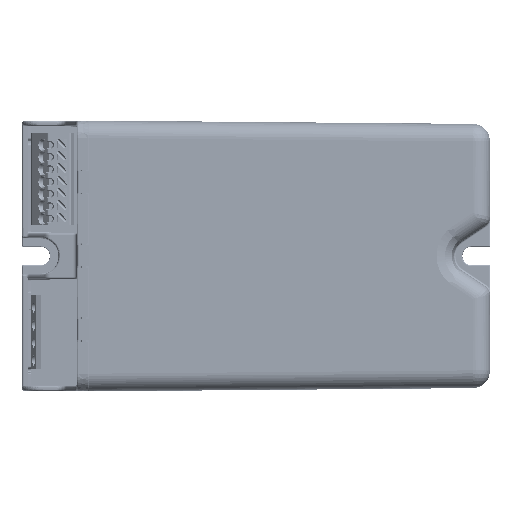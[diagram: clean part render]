
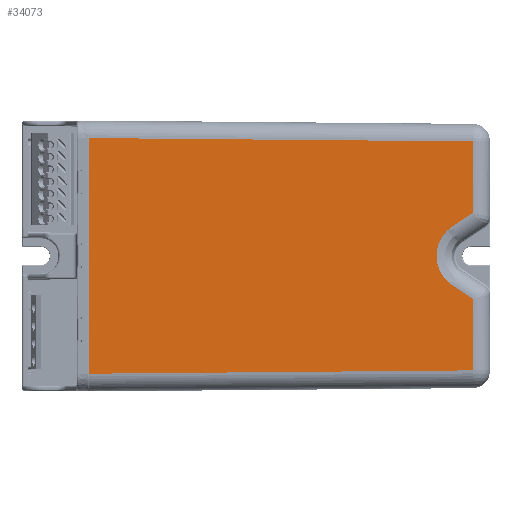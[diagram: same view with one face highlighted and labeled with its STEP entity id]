
A CAD part, top view. The second image highlights one B-rep face of the part: STEP entity #34073.
In plain terms, the highlighted planar face has unit normal (0.009, 0, 1).
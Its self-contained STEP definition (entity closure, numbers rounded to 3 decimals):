
#14262=CARTESIAN_POINT('',(6.293,59.825,15.582));
#14619=DIRECTION('',(0.,1.,0.));
#14620=VECTOR('',#14619,6.);
#14621=CARTESIAN_POINT('',(6.293,44.325,15.582));
#14622=LINE('',#14621,#14620);
#14623=DIRECTION('',(0.,1.,0.));
#14624=VECTOR('',#14623,9.5);
#14625=CARTESIAN_POINT('',(6.293,50.325,15.582));
#14626=LINE('',#14625,#14624);
#14627=DIRECTION('',(1.,-0.009,-0.009));
#14628=VECTOR('',#14627,108.952);
#14629=CARTESIAN_POINT('',(6.293,59.825,15.582));
#14630=LINE('',#14629,#14628);
#14631=DIRECTION('',(0.,-1.,0.));
#14632=VECTOR('',#14631,20.371);
#14633=CARTESIAN_POINT('',(115.237,58.874,14.631));
#14634=LINE('',#14633,#14632);
#14635=DIRECTION('',(-0.832,-0.554,0.007));
#14636=VECTOR('',#14635,6.956);
#14637=CARTESIAN_POINT('',(115.237,38.503,14.631));
#14638=LINE('',#14637,#14636);
#14639=CARTESIAN_POINT('',(109.446,34.65,14.681));
#14640=CARTESIAN_POINT('',(109.023,34.368,14.685));
#14641=CARTESIAN_POINT('',(108.229,33.748,14.692));
#14642=CARTESIAN_POINT('',(107.186,32.643,14.701));
#14643=CARTESIAN_POINT('',(106.324,31.395,14.709));
#14644=CARTESIAN_POINT('',(105.659,30.033,14.714));
#14645=CARTESIAN_POINT('',(105.206,28.582,14.718));
#14646=CARTESIAN_POINT('',(104.977,27.081,14.72));
#14647=CARTESIAN_POINT('',(104.978,25.563,14.72));
#14648=CARTESIAN_POINT('',(105.207,24.063,14.718));
#14649=CARTESIAN_POINT('',(105.66,22.614,14.714));
#14650=CARTESIAN_POINT('',(106.324,21.253,14.709));
#14651=CARTESIAN_POINT('',(107.186,20.007,14.701));
#14652=CARTESIAN_POINT('',(108.229,18.902,14.692));
#14653=CARTESIAN_POINT('',(109.023,18.282,14.685));
#14654=CARTESIAN_POINT('',(109.446,18.,14.681));
#14656=DIRECTION('',(0.832,-0.554,-0.007));
#14657=VECTOR('',#14656,6.956);
#14658=CARTESIAN_POINT('',(109.446,18.,14.681));
#14659=LINE('',#14658,#14657);
#14660=DIRECTION('',(0.,-1.,0.));
#14661=VECTOR('',#14660,20.371);
#14662=CARTESIAN_POINT('',(115.237,14.146,14.631));
#14663=LINE('',#14662,#14661);
#14664=DIRECTION('',(-1.,-0.009,0.009));
#14665=VECTOR('',#14664,108.952);
#14666=CARTESIAN_POINT('',(115.237,-6.225,
14.631));
#14667=LINE('',#14666,#14665);
#14668=DIRECTION('',(0.,1.,0.));
#14669=VECTOR('',#14668,9.5);
#14670=CARTESIAN_POINT('',(6.293,-7.175,
15.582));
#14671=LINE('',#14670,#14669);
#14672=DIRECTION('',(0.,1.,0.));
#14673=VECTOR('',#14672,6.);
#14674=CARTESIAN_POINT('',(6.293,2.325,15.582));
#14675=LINE('',#14674,#14673);
#14676=DIRECTION('',(0.,1.,0.));
#14677=VECTOR('',#14676,15.);
#14678=CARTESIAN_POINT('',(6.293,8.325,15.582));
#14679=LINE('',#14678,#14677);
#14680=DIRECTION('',(0.,1.,0.));
#14681=VECTOR('',#14680,6.);
#14682=CARTESIAN_POINT('',(6.293,23.325,15.582));
#14683=LINE('',#14682,#14681);
#14684=DIRECTION('',(0.,1.,0.));
#14685=VECTOR('',#14684,15.);
#14686=CARTESIAN_POINT('',(6.293,29.325,15.582));
#14687=LINE('',#14686,#14685);
#28478=VERTEX_POINT('',#14262);
#28479=CARTESIAN_POINT('',(6.293,50.325,15.582));
#28480=VERTEX_POINT('',#28479);
#28515=CARTESIAN_POINT('',(6.293,23.325,15.582));
#28516=VERTEX_POINT('',#28515);
#28517=CARTESIAN_POINT('',(6.293,8.325,15.582));
#28518=VERTEX_POINT('',#28517);
#28551=CARTESIAN_POINT('',(6.293,29.325,15.582));
#28552=VERTEX_POINT('',#28551);
#28561=CARTESIAN_POINT('',(6.293,44.325,15.582));
#28562=VERTEX_POINT('',#28561);
#28603=CARTESIAN_POINT('',(115.237,58.874,14.631));
#28604=VERTEX_POINT('',#28603);
#28605=CARTESIAN_POINT('',(115.237,38.503,14.631));
#28606=VERTEX_POINT('',#28605);
#28607=CARTESIAN_POINT('',(109.446,34.65,14.681));
#28608=VERTEX_POINT('',#28607);
#28609=VERTEX_POINT('',#14654);
#28610=CARTESIAN_POINT('',(115.237,14.146,14.631));
#28611=VERTEX_POINT('',#28610);
#28612=CARTESIAN_POINT('',(115.237,-6.225,
14.631));
#28613=VERTEX_POINT('',#28612);
#28614=CARTESIAN_POINT('',(6.293,-7.175,
15.582));
#28615=VERTEX_POINT('',#28614);
#28616=CARTESIAN_POINT('',(6.293,2.325,15.582));
#28617=VERTEX_POINT('',#28616);
#34043=CARTESIAN_POINT('',(6.293,64.945,15.582));
#34044=DIRECTION('',(0.009,0.,1.));
#34045=DIRECTION('',(0.,1.,0.));
#34046=AXIS2_PLACEMENT_3D('',#34043,#34044,#34045);
#34047=PLANE('',#34046);
#34048=ORIENTED_EDGE('',*,*,#33986,.T.);
#34049=ORIENTED_EDGE('',*,*,#33566,.T.);
#34051=ORIENTED_EDGE('',*,*,#34050,.T.);
#34053=ORIENTED_EDGE('',*,*,#34052,.T.);
#34055=ORIENTED_EDGE('',*,*,#34054,.T.);
#34057=ORIENTED_EDGE('',*,*,#34056,.T.);
#34059=ORIENTED_EDGE('',*,*,#34058,.T.);
#34061=ORIENTED_EDGE('',*,*,#34060,.T.);
#34063=ORIENTED_EDGE('',*,*,#34062,.T.);
#34064=ORIENTED_EDGE('',*,*,#32816,.T.);
#34066=ORIENTED_EDGE('',*,*,#34065,.T.);
#34067=ORIENTED_EDGE('',*,*,#33676,.T.);
#34069=ORIENTED_EDGE('',*,*,#34068,.T.);
#34070=ORIENTED_EDGE('',*,*,#33832,.T.);
#34071=EDGE_LOOP('',(#34048,#34049,#34051,#34053,#34055,#34057,#34059,#34061,
#34063,#34064,#34066,#34067,#34069,#34070));
#34072=FACE_OUTER_BOUND('',#34071,.F.);
#34073=ADVANCED_FACE('',(#34072),#34047,.T.);
#14655=B_SPLINE_CURVE_WITH_KNOTS('',3,(#14639,#14640,#14641,#14642,#14643,
#14644,#14645,#14646,#14647,#14648,#14649,#14650,#14651,#14652,#14653,#14654),
.UNSPECIFIED.,.F.,.F.,(4,1,1,1,1,1,1,1,1,1,1,1,1,4),(0.,0.077,
0.154,0.231,0.308,0.385,
0.462,0.538,0.615,0.692,
0.769,0.846,0.923,1.),.UNSPECIFIED.);
#32816=EDGE_CURVE('',#28615,#28617,#14671,.T.);
#33566=EDGE_CURVE('',#28480,#28478,#14626,.T.);
#33676=EDGE_CURVE('',#28518,#28516,#14679,.T.);
#33832=EDGE_CURVE('',#28552,#28562,#14687,.T.);
#33986=EDGE_CURVE('',#28562,#28480,#14622,.T.);
#34050=EDGE_CURVE('',#28478,#28604,#14630,.T.);
#34052=EDGE_CURVE('',#28604,#28606,#14634,.T.);
#34054=EDGE_CURVE('',#28606,#28608,#14638,.T.);
#34056=EDGE_CURVE('',#28608,#28609,#14655,.T.);
#34058=EDGE_CURVE('',#28609,#28611,#14659,.T.);
#34060=EDGE_CURVE('',#28611,#28613,#14663,.T.);
#34062=EDGE_CURVE('',#28613,#28615,#14667,.T.);
#34065=EDGE_CURVE('',#28617,#28518,#14675,.T.);
#34068=EDGE_CURVE('',#28516,#28552,#14683,.T.);
